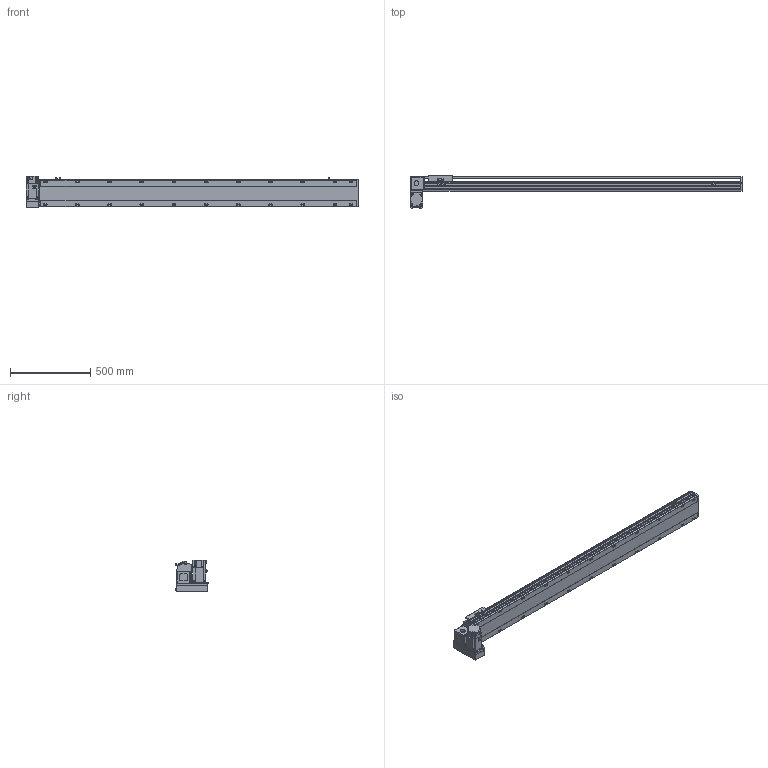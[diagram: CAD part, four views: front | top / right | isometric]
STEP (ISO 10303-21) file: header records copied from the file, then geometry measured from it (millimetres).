
FILE_DESCRIPTION( ( 'STEP AP214' ), '1' );
FILE_NAME( 'x:/temp/worker_4/temp/exporttempdir_2248_338_PvJPc/format_0/PBS170-P40-S1700-LD-T75-C1-N(0).stp', '2022-06-07T07:53:57', ( 'License CC BY-ND 4.0' ), ( 'CADENAS' ), ' ', 'PARTsolutions', ' ' );
FILE_SCHEMA( ( 'AUTOMOTIVE_DESIGN { 1 0 10303 214 1 1 1 1 }' ) );
Length unit declared in the file: millimetre
Products named in the file (7): PBS170-P40-S1700-LD-T75-C1-N(0); _PBS170-S1700()_body; _PBS170T-LD_motors; _T75-p1; _PBS170_sliser; _PBS170_plant; _PBS170_sensor
Assembly tree (8 placements, depth 2):
  PBS170-P40-S1700-LD-T75-C1-N(0)
    _PBS170-S1700()_body
    _PBS170T-LD_motors
    _T75-p1
    _PBS170_sliser
    _PBS170_plant
    _PBS170_sensor  x3
Bounding box: 2063 x 201 x 197.3 mm (x, y, z)
Volume: 15977053.4 mm3; surface area: 2042360.4 mm2
Topology: 8 solids, 8 shells, 1130 faces, 2995 edges, 1952 vertices
Faces by surface type: plane 705, cylinder 363, cone 52, sphere 8, torus 2
Full cylindrical faces by diameter (mm): 3.242 x4, 4 x2, 4.4 x4, 4.5 x6, 4.917 x4, 6 x9, 6.647 x30, 7 x2, 7.5 x4, 8 x8, 8.5 x22, 10 x4, 10.5 x22, 11 x2, 30 x2, 40 x1, 70 x1
Entity records: 41666 total; most frequent: CARTESIAN_POINT 6725, DIRECTION 5510, ORIENTED_EDGE 5208, EDGE_CURVE 2604, AXIS2_PLACEMENT_3D 1927, VERTEX_POINT 1802, LINE 1656, VECTOR 1656
